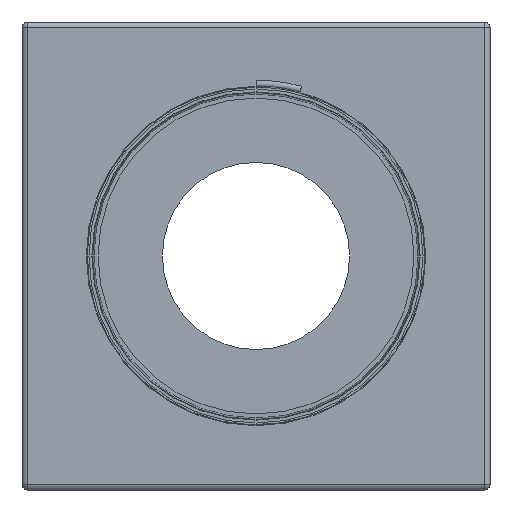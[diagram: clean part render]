
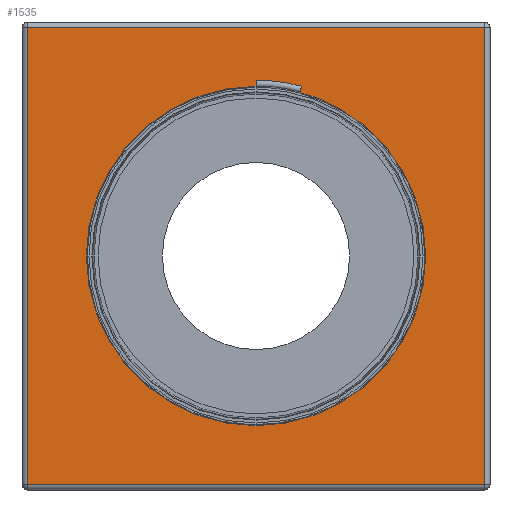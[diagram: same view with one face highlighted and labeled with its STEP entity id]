
A CAD part, front view. The second image highlights one B-rep face of the part: STEP entity #1535.
In plain terms, the highlighted planar face has unit normal (0, -1, 0).
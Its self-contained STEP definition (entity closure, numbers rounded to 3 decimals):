
#81=FACE_BOUND('',#369,.T.);
#140=PLANE('',#1725);
#223=FACE_OUTER_BOUND('',#368,.T.);
#368=EDGE_LOOP('',(#1221,#1222,#1223,#1224));
#369=EDGE_LOOP('',(#1225));
#490=LINE('',#2526,#554);
#494=LINE('',#2546,#558);
#496=LINE('',#2549,#560);
#502=LINE('',#2558,#566);
#554=VECTOR('',#2055,10.);
#558=VECTOR('',#2079,10.);
#560=VECTOR('',#2083,10.);
#566=VECTOR('',#2095,10.);
#656=CIRCLE('',#1726,290.);
#755=VERTEX_POINT('',#2483);
#764=VERTEX_POINT('',#2507);
#767=VERTEX_POINT('',#2517);
#773=VERTEX_POINT('',#2537);
#775=VERTEX_POINT('',#2569);
#918=EDGE_CURVE('',#755,#767,#490,.T.);
#928=EDGE_CURVE('',#767,#773,#494,.T.);
#930=EDGE_CURVE('',#773,#764,#496,.T.);
#936=EDGE_CURVE('',#764,#755,#502,.T.);
#942=EDGE_CURVE('',#775,#775,#656,.T.);
#1221=ORIENTED_EDGE('',*,*,#918,.F.);
#1222=ORIENTED_EDGE('',*,*,#936,.F.);
#1223=ORIENTED_EDGE('',*,*,#930,.F.);
#1224=ORIENTED_EDGE('',*,*,#928,.F.);
#1225=ORIENTED_EDGE('',*,*,#942,.T.);
#1535=ADVANCED_FACE('',(#223,#81),#140,.T.);
#1725=AXIS2_PLACEMENT_3D('',#2568,#2109,#2110);
#1726=AXIS2_PLACEMENT_3D('',#2570,#2111,#2112);
#2055=DIRECTION('',(0.,0.,1.));
#2079=DIRECTION('',(1.,0.,0.));
#2083=DIRECTION('',(0.,0.,-1.));
#2095=DIRECTION('',(-1.,0.,0.));
#2109=DIRECTION('center_axis',(0.,-1.,0.));
#2110=DIRECTION('ref_axis',(0.,0.,-1.));
#2111=DIRECTION('center_axis',(0.,1.,0.));
#2112=DIRECTION('ref_axis',(0.,0.,1.));
#2483=CARTESIAN_POINT('',(-390.,-400.,-390.));
#2507=CARTESIAN_POINT('',(390.,-400.,-390.));
#2517=CARTESIAN_POINT('',(-390.,-400.,390.));
#2526=CARTESIAN_POINT('',(-390.,-400.,-200.));
#2537=CARTESIAN_POINT('',(390.,-400.,390.));
#2546=CARTESIAN_POINT('',(-200.,-400.,390.));
#2549=CARTESIAN_POINT('',(390.,-400.,200.));
#2558=CARTESIAN_POINT('',(200.,-400.,-390.));
#2568=CARTESIAN_POINT('Origin',(0.,-400.,0.));
#2569=CARTESIAN_POINT('',(0.,-400.,290.));
#2570=CARTESIAN_POINT('Origin',(0.,-400.,0.));
